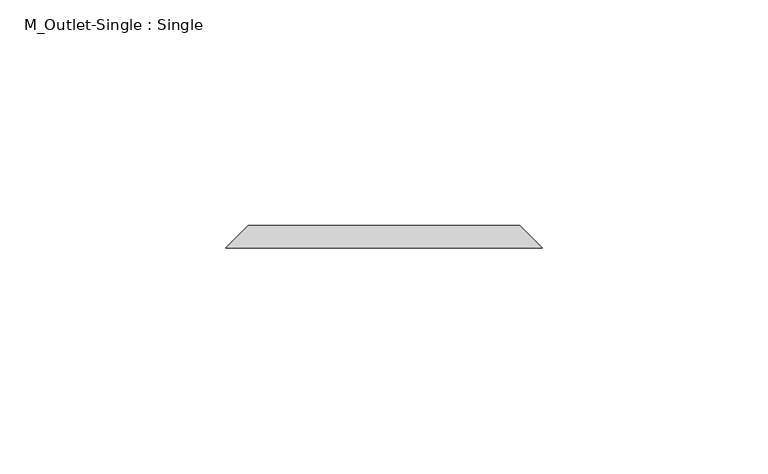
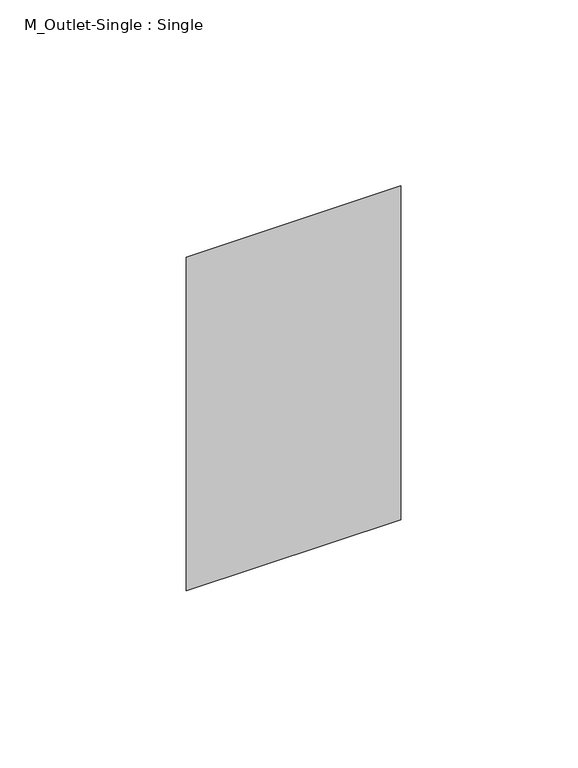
"""IFC4 building model written with IfcOpenShell, lengths in millimetres: proxy geometry, M_Outlet-Single : Single."""

from ifc_helpers import new_model, si_unit, origin, place, context, project, spatial, faceted_brep, source, transform, mapped, element, save


def m_outlet_single_single_eedd577d(model_context):
    return source(origin(), model_context, "Body", "Brep", [
        faceted_brep([(95.0, 11.5, 357.5), (155.0, 11.5, 357.5), (155.0, 11.5, 252.5), (95.0, 11.5, 252.5), (90.0, 6.5, 362.5), (90.0, 6.5, 247.5), (160.0, 6.5, 247.5), (160.0, 6.5, 362.5)], [[[0, 1, 2, 3]], [[4, 5, 6, 7]], [[4, 7, 1, 0]], [[7, 6, 2, 1]], [[6, 5, 3, 2]], [[5, 4, 0, 3]]]),
    ])


if __name__ == "__main__":
    model = new_model("IFC4")
    model_context = context("Model", 3, world=origin())
    ifc_project = project(units=[si_unit("LENGTHUNIT", "METRE", prefix="MILLI")], contexts=[model_context])
    site = spatial("IfcSite", under=ifc_project)
    building = spatial("IfcBuilding", under=site)
    placement = place(None, origin())
    m_outlet_single_single_shape = m_outlet_single_single_eedd577d(model_context)
    element("IfcBuildingElementProxy", 1, Name="M_Outlet-Single : Single", ObjectType="M_Outlet-Single : Single", at=placement, inside=building, context=model_context, shape_type="MappedRepresentation", body=[
        mapped(m_outlet_single_single_shape, transform((0.0, 0.0, 0.0), x_axis=(1.0, 0.0, 0.0), y_axis=(0.0, 1.0, 0.0), z_axis=(0.0, 0.0, 1.0))),
    ])
    save(model, "model.ifc")
